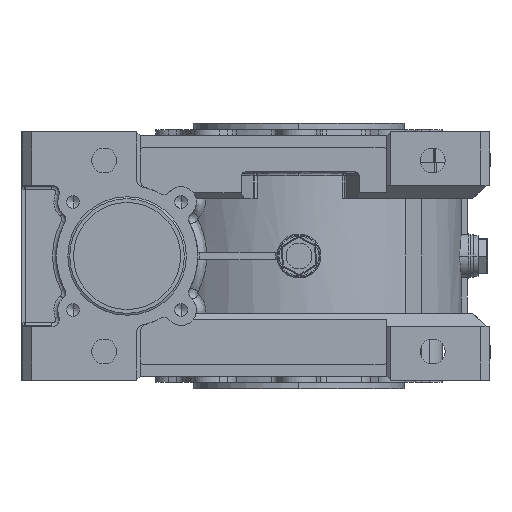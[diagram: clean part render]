
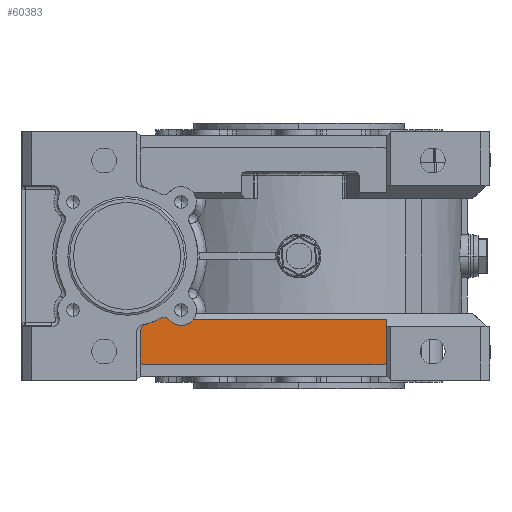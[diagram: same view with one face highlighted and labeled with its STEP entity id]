
A CAD part, left-side view. The second image highlights one B-rep face of the part: STEP entity #60383.
In plain terms, the highlighted planar face has unit normal (-1, 0, 0).
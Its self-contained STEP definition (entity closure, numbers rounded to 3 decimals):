
#60134=CARTESIAN_POINT('',(-94.,80.073,29.357));
#60135=VERTEX_POINT('',#60134);
#60136=CARTESIAN_POINT('',(-94.0,83.0,25.503));
#60137=VERTEX_POINT('',#60136);
#60138=CARTESIAN_POINT('',(-94.,79.0,25.503));
#60139=DIRECTION('',(-1.0,0.0,0.0));
#60140=DIRECTION('',(0.0,-1.0,0.0));
#60141=AXIS2_PLACEMENT_3D('',#60138,#60139,#60140);
#60142=CIRCLE('',#60141,4.);
#60143=EDGE_CURVE('',#60135,#60137,#60142,.T.);
#60218=CARTESIAN_POINT('',(-94.,72.619,32.337));
#60219=VERTEX_POINT('',#60218);
#60220=CARTESIAN_POINT('',(-94.0,90.0,65.0));
#60221=DIRECTION('',(1.,0.0,0.0));
#60222=DIRECTION('',(0.0,0.22,0.976));
#60223=AXIS2_PLACEMENT_3D('',#60220,#60221,#60222);
#60224=CIRCLE('',#60223,37.);
#60225=EDGE_CURVE('',#60219,#60135,#60224,.T.);
#60251=CARTESIAN_POINT('',(-94.0,-46.0,32.));
#60252=VERTEX_POINT('',#60251);
#60261=CARTESIAN_POINT('',(-94.,-46.0,10.));
#60262=VERTEX_POINT('',#60261);
#60263=CARTESIAN_POINT('',(-94.,-46.0,10.));
#60264=DIRECTION('',(0.0,0.0,1.0));
#60265=VECTOR('',#60264,22.);
#60266=LINE('',#60263,#60265);
#60267=EDGE_CURVE('',#60262,#60252,#60266,.T.);
#60317=CARTESIAN_POINT('',(-94.,20.078,64.999));
#60318=DIRECTION('',(1.0,0.0,0.0));
#60319=DIRECTION('',(0.0,0.0,-1.0));
#60320=AXIS2_PLACEMENT_3D('',#60317,#60318,#60319);
#60321=PLANE('',#60320);
#60322=ORIENTED_EDGE('',*,*,#60143,.T.);
#60323=CARTESIAN_POINT('',(-94.,83.,10.));
#60324=VERTEX_POINT('',#60323);
#60325=CARTESIAN_POINT('',(-94.0,83.0,25.503));
#60326=DIRECTION('',(0.0,0.0,-1.0));
#60327=VECTOR('',#60326,15.503);
#60328=LINE('',#60325,#60327);
#60329=EDGE_CURVE('',#60137,#60324,#60328,.T.);
#60330=ORIENTED_EDGE('',*,*,#60329,.T.);
#60331=CARTESIAN_POINT('',(-94.,81.,8.));
#60332=VERTEX_POINT('',#60331);
#60333=CARTESIAN_POINT('',(-94.0,81.,10.));
#60334=DIRECTION('',(-1.0,0.0,0.0));
#60335=DIRECTION('',(0.0,1.0,0.0));
#60336=AXIS2_PLACEMENT_3D('',#60333,#60334,#60335);
#60337=CIRCLE('',#60336,2.);
#60338=EDGE_CURVE('',#60324,#60332,#60337,.T.);
#60339=ORIENTED_EDGE('',*,*,#60338,.T.);
#60340=CARTESIAN_POINT('',(-94.,-44.0,8.));
#60341=VERTEX_POINT('',#60340);
#60342=CARTESIAN_POINT('',(-94.,81.,8.));
#60343=DIRECTION('',(0.0,-1.0,0.0));
#60344=VECTOR('',#60343,125.);
#60345=LINE('',#60342,#60344);
#60346=EDGE_CURVE('',#60332,#60341,#60345,.T.);
#60347=ORIENTED_EDGE('',*,*,#60346,.T.);
#60348=CARTESIAN_POINT('',(-94.0,-44.,10.));
#60349=DIRECTION('',(-1.0,0.0,0.0));
#60350=DIRECTION('',(0.0,0.0,-1.0));
#60351=AXIS2_PLACEMENT_3D('',#60348,#60349,#60350);
#60352=CIRCLE('',#60351,2.);
#60353=EDGE_CURVE('',#60341,#60262,#60352,.T.);
#60354=ORIENTED_EDGE('',*,*,#60353,.T.);
#60355=ORIENTED_EDGE('',*,*,#60267,.T.);
#60356=CARTESIAN_POINT('',(-94.,55.253,32.));
#60357=VERTEX_POINT('',#60356);
#60358=CARTESIAN_POINT('',(-94.,55.253,32.));
#60359=DIRECTION('',(0.0,-1.0,0.0));
#60360=VECTOR('',#60359,101.253);
#60361=LINE('',#60358,#60360);
#60362=EDGE_CURVE('',#60357,#60252,#60361,.T.);
#60363=ORIENTED_EDGE('',*,*,#60362,.F.);
#60364=CARTESIAN_POINT('',(-94.,67.732,31.442));
#60365=VERTEX_POINT('',#60364);
#60366=CARTESIAN_POINT('',(-94.0,61.716,36.716));
#60367=DIRECTION('',(1.0,0.0,0.0));
#60368=DIRECTION('',(0.0,-0.752,0.659));
#60369=AXIS2_PLACEMENT_3D('',#60366,#60367,#60368);
#60370=CIRCLE('',#60369,8.);
#60371=EDGE_CURVE('',#60357,#60365,#60370,.T.);
#60372=ORIENTED_EDGE('',*,*,#60371,.T.);
#60373=CARTESIAN_POINT('',(-94.0,70.74,28.806));
#60374=DIRECTION('',(-1.,0.0,0.0));
#60375=DIRECTION('',(0.0,-0.752,0.659));
#60376=AXIS2_PLACEMENT_3D('',#60373,#60374,#60375);
#60377=CIRCLE('',#60376,4.0);
#60378=EDGE_CURVE('',#60365,#60219,#60377,.T.);
#60379=ORIENTED_EDGE('',*,*,#60378,.T.);
#60380=ORIENTED_EDGE('',*,*,#60225,.T.);
#60381=EDGE_LOOP('',(#60322,#60330,#60339,#60347,#60354,#60355,#60363,#60372,#60379,#60380));
#60382=FACE_OUTER_BOUND('',#60381,.T.);
#60383=ADVANCED_FACE('',(#60382),#60321,.F.);
